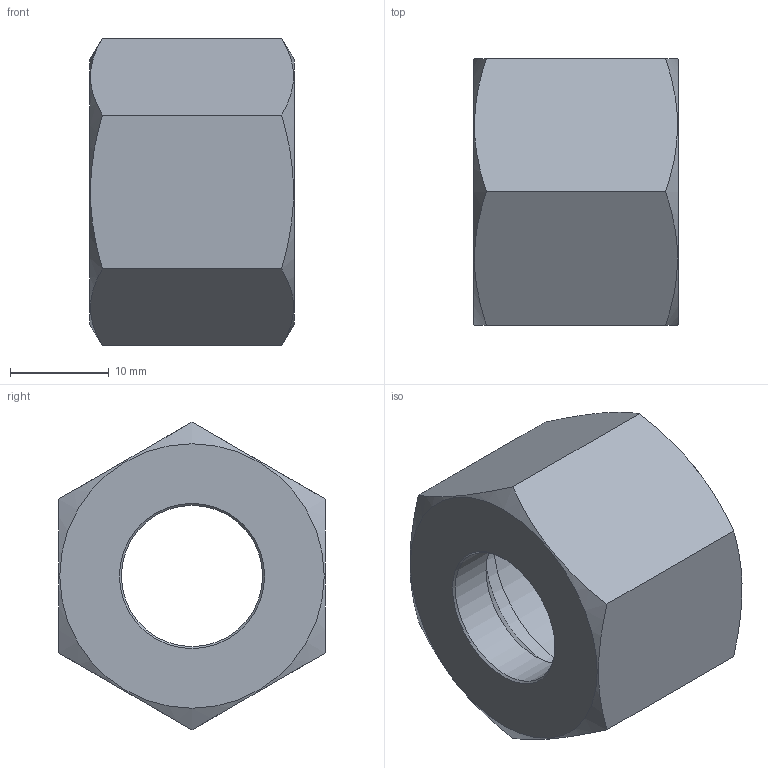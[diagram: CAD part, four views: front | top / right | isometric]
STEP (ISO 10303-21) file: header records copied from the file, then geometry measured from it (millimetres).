
FILE_DESCRIPTION( ( 'Unknown' ), '1' );
FILE_NAME( 'C:/Users/p.nanko/Desktop/3D SR/M14S.stp', 'Unknown', ( 'Peter Nanko' ), ( 'Armaturen Arndt' ), 'PSStep 14.0', 'Solid Edge ST4', ' ' );
FILE_SCHEMA( ( 'AUTOMOTIVE_DESIGN { 1 0 10303 214 1 1 1 1 }' ) );
Length unit declared in the file: millimetre
Products named in the file (1): 1
Bounding box: 20.7 x 27 x 31.18 mm (x, y, z)
Volume: 7222.9 mm3; surface area: 3953.5 mm2
Topology: 1 solids, 1 shells, 17 faces, 38 edges, 24 vertices
Faces by surface type: plane 9, cone 5, cylinder 3
Full cylindrical faces by diameter (mm): 14.3 x1, 20.376 x2
Entity records: 676 total; most frequent: CARTESIAN_POINT 200, DIRECTION 62, ORIENTED_EDGE 56, AXIS2_PLACEMENT_3D 28, EDGE_LOOP 28, EDGE_CURVE 28, VERTEX_POINT 22, FACE_OUTER_BOUND 20
